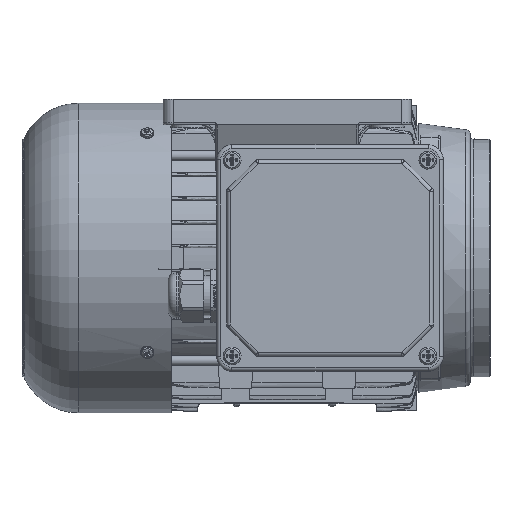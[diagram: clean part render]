
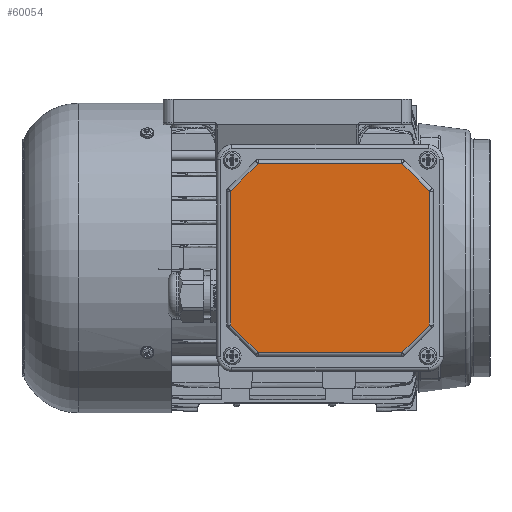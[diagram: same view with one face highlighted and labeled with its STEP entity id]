
A CAD part, left-side view. The second image highlights one B-rep face of the part: STEP entity #60054.
In plain terms, the highlighted planar face has unit normal (-1, 0, 0).
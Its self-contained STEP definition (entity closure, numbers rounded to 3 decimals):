
#1784=PLANE('',#63473);
#3734=FACE_OUTER_BOUND('',#6842,.T.);
#6842=EDGE_LOOP('',(#39797,#39798,#39799,#39800,#39801,#39802,#39803,#39804));
#13656=LINE('',#87843,#18834);
#13657=LINE('',#87845,#18835);
#13658=LINE('',#87847,#18836);
#13659=LINE('',#87849,#18837);
#13660=LINE('',#87851,#18838);
#13661=LINE('',#87853,#18839);
#13662=LINE('',#87855,#18840);
#13663=LINE('',#87856,#18841);
#18834=VECTOR('',#70181,67.343);
#18835=VECTOR('',#70182,19.556);
#18836=VECTOR('',#70183,72.343);
#18837=VECTOR('',#70184,19.556);
#18838=VECTOR('',#70185,67.343);
#18839=VECTOR('',#70186,19.556);
#18840=VECTOR('',#70187,72.343);
#18841=VECTOR('',#70188,19.556);
#24141=VERTEX_POINT('',#87841);
#24142=VERTEX_POINT('',#87842);
#24143=VERTEX_POINT('',#87844);
#24144=VERTEX_POINT('',#87846);
#24145=VERTEX_POINT('',#87848);
#24146=VERTEX_POINT('',#87850);
#24147=VERTEX_POINT('',#87852);
#24148=VERTEX_POINT('',#87854);
#30320=EDGE_CURVE('',#24141,#24142,#13656,.T.);
#30321=EDGE_CURVE('',#24142,#24143,#13657,.F.);
#30322=EDGE_CURVE('',#24143,#24144,#13658,.T.);
#30323=EDGE_CURVE('',#24144,#24145,#13659,.F.);
#30324=EDGE_CURVE('',#24145,#24146,#13660,.T.);
#30325=EDGE_CURVE('',#24146,#24147,#13661,.T.);
#30326=EDGE_CURVE('',#24147,#24148,#13662,.T.);
#30327=EDGE_CURVE('',#24148,#24141,#13663,.T.);
#39797=ORIENTED_EDGE('',*,*,#30320,.T.);
#39798=ORIENTED_EDGE('',*,*,#30321,.T.);
#39799=ORIENTED_EDGE('',*,*,#30322,.T.);
#39800=ORIENTED_EDGE('',*,*,#30323,.T.);
#39801=ORIENTED_EDGE('',*,*,#30324,.T.);
#39802=ORIENTED_EDGE('',*,*,#30325,.T.);
#39803=ORIENTED_EDGE('',*,*,#30326,.T.);
#39804=ORIENTED_EDGE('',*,*,#30327,.T.);
#60054=ADVANCED_FACE('',(#3734),#1784,.F.);
#63473=AXIS2_PLACEMENT_3D('',#87840,#70179,#70180);
#70179=DIRECTION('center_axis',(1.,0.,0.));
#70180=DIRECTION('ref_axis',(0.,0.,
-1.));
#70181=DIRECTION('',(0.,0.,-1.));
#70182=DIRECTION('',(0.,0.707,0.707));
#70183=DIRECTION('',(0.,-1.,0.));
#70184=DIRECTION('',(0.,0.707,-0.707));
#70185=DIRECTION('',(0.,0.,1.));
#70186=DIRECTION('',(0.,0.707,0.707));
#70187=DIRECTION('',(0.,1.,0.));
#70188=DIRECTION('',(0.,0.707,-0.707));
#87840=CARTESIAN_POINT('Origin',(-139.,94.5,49.5));
#87841=CARTESIAN_POINT('',(-139.,92.5,33.672));
#87842=CARTESIAN_POINT('',(-139.,92.5,-33.672));
#87843=CARTESIAN_POINT('',(-139.,92.5,49.5));
#87844=CARTESIAN_POINT('',(-139.,78.672,-47.5));
#87845=CARTESIAN_POINT('',(-139.,80.086,-46.086));
#87846=CARTESIAN_POINT('',(-139.,6.328,-47.5));
#87847=CARTESIAN_POINT('',(-139.,94.5,-47.5));
#87848=CARTESIAN_POINT('',(-139.,-7.5,-33.672));
#87849=CARTESIAN_POINT('',(-139.,-6.086,-35.086));
#87850=CARTESIAN_POINT('',(-139.,-7.5,33.672));
#87851=CARTESIAN_POINT('',(-139.,-7.5,49.5));
#87852=CARTESIAN_POINT('',(-139.,6.328,47.5));
#87853=CARTESIAN_POINT('',(-139.,4.914,46.086));
#87854=CARTESIAN_POINT('',(-139.,78.672,47.5));
#87855=CARTESIAN_POINT('',(-139.,94.5,47.5));
#87856=CARTESIAN_POINT('',(-139.,91.086,35.086));
